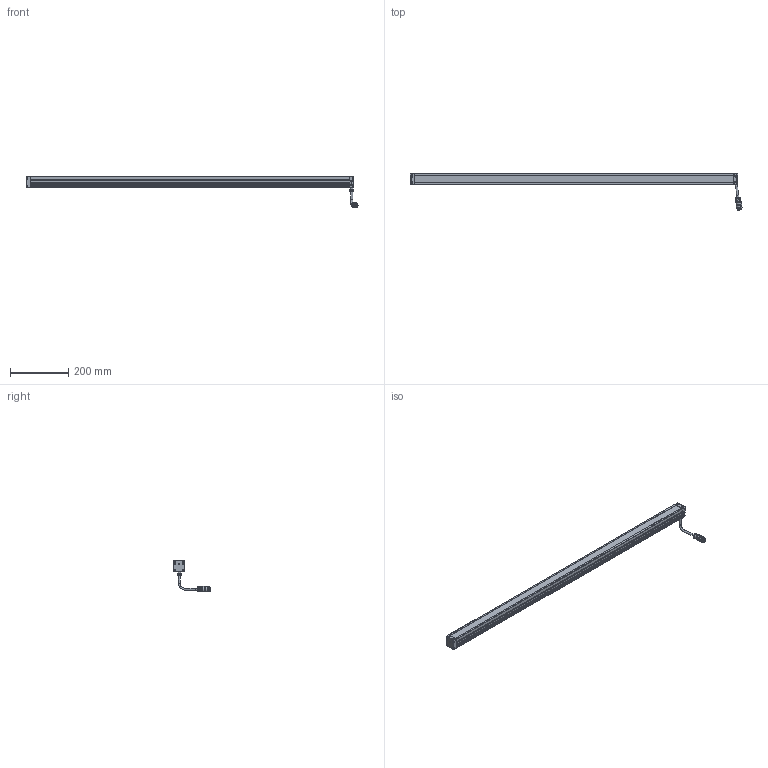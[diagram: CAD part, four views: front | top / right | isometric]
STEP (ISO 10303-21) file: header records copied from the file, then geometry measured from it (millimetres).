
FILE_DESCRIPTION(/* description */ (''),/* implementation_level */ '2;1');
FILE_NAME(/* name */ 'LBHP1100',/* time_stamp */ '2025-01-14T08:08:30+01:00',/* author */ (''),/* organization */ ('iiM AG'),/* preprocessor_version */ 'ST-DEVELOPER v16.7',/* originating_system */ 'DEX',/* authorisation */ $);
FILE_SCHEMA (('AUTOMOTIVE_DESIGN {1 0 10303 214 3 1 1}'));
Length unit declared in the file: millimetre
Products named in the file (1): step export
Bounding box: 1144.79 x 126.2 x 109.58 mm (x, y, z)
Volume: 1446098.9 mm3; surface area: 322021.5 mm2
Topology: 2 solids, 2 shells, 882 faces, 2334 edges, 1476 vertices
Faces by surface type: cylinder 368, plane 336, cone 138, sphere 21, torus 16, bspline 3
Full cylindrical faces by diameter (mm): 1.001 x12, 2.693 x4, 3 x2, 3.1 x4, 3.242 x6, 3.8 x8, 5.6 x8, 6 x8, 6.8 x2, 8.008 x1, 10 x1, 11 x1, 12.9 x2, 14 x1, 15.015 x1, 16.016 x1, 17.518 x1, 18.519 x3, 18.619 x2
Entity records: 32582 total; most frequent: CARTESIAN_POINT 6224, ORIENTED_EDGE 4118, DIRECTION 4048, EDGE_CURVE 2059, AXIS2_PLACEMENT_3D 1523, VERTEX_POINT 1383, FACE_BOUND 1100, EDGE_LOOP 1086
